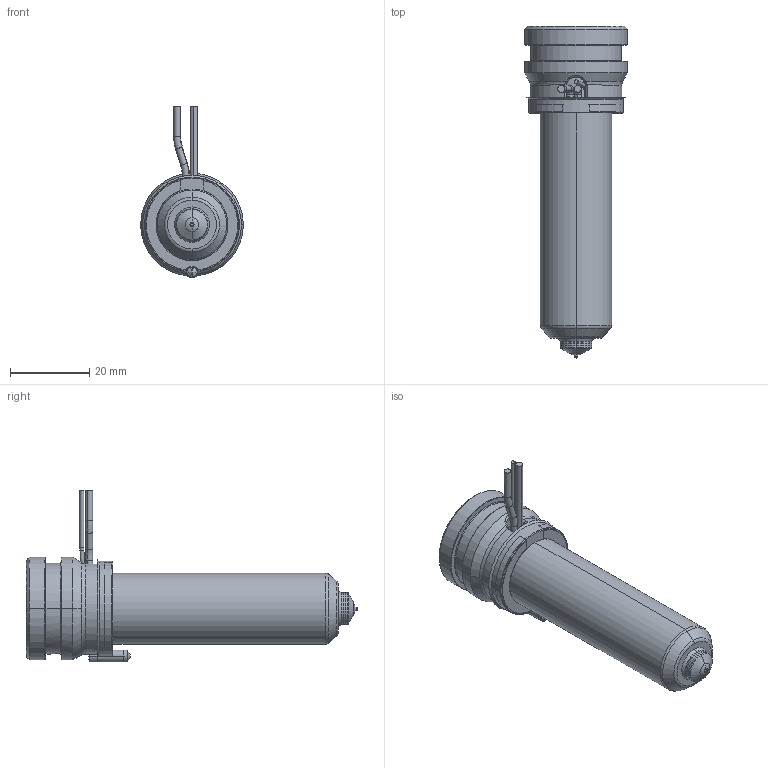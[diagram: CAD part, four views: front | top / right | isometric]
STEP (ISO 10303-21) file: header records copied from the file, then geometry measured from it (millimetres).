
FILE_DESCRIPTION((''),'2;1');
FILE_NAME('MPN-08-24-VSA8-066-A','2026-02-05T12:03:07',('UPTIO'),('Thermoplay S.p.A.'),'CREO PARAMETRIC BY PTC INC, 2023494','CREO PARAMETRIC BY PTC INC, 2023494','');
FILE_SCHEMA(('CONFIG_CONTROL_DESIGN','SHAPE_APPEARANCE_LAYERS_GROUPS'));
Length unit declared in the file: millimetre
Products named in the file (1): MPN-08-24-VSA8-066-A
Bounding box: 26 x 84 x 43.5 mm (x, y, z)
Volume: 17591.9 mm3; surface area: 21430.5 mm2
Topology: 2 solids, 3 shells, 543 faces, 1440 edges, 895 vertices
Faces by surface type: cylinder 182, plane 143, bspline 80, torus 62, cone 60, sphere 10, extrusion 6
Entity records: 29435 total; most frequent: CARTESIAN_POINT 13237, ORIENTED_EDGE 2864, DIRECTION 2580, EDGE_CURVE 1432, AXIS2_PLACEMENT_3D 1007, VERTEX_POINT 895, EDGE_LOOP 571, VECTOR 566
